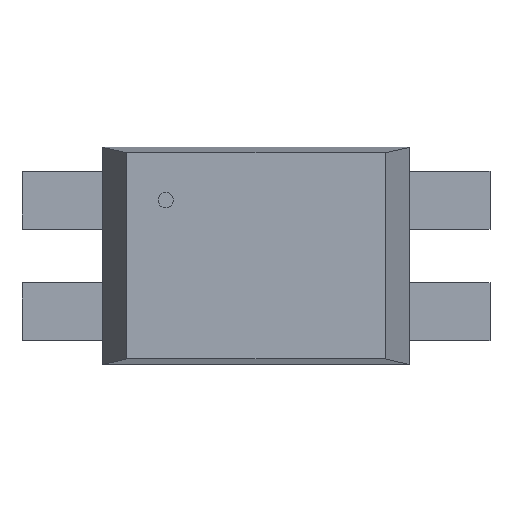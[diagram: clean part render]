
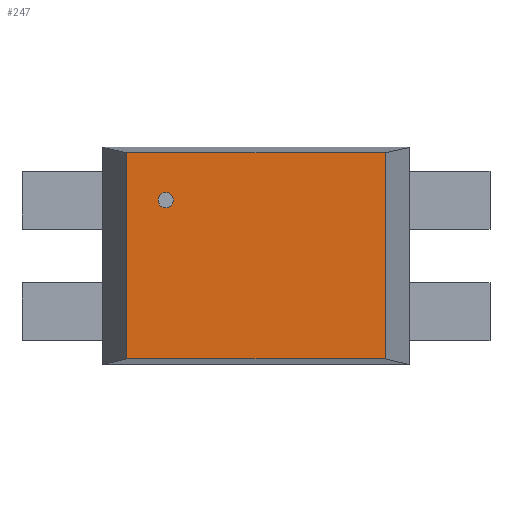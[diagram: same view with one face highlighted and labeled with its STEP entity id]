
A CAD part, top view. The second image highlights one B-rep face of the part: STEP entity #247.
In plain terms, the highlighted planar face has unit normal (0, 0, 1).
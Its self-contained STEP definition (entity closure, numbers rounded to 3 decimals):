
#247=ADVANCED_FACE('',(#253),#248,.T.);
#248=PLANE('',#249);
#249=AXIS2_PLACEMENT_3D('',#250,#251,#252);
#250=CARTESIAN_POINT('',(2.261,-3.62,4.267));
#251=DIRECTION('',(0.0,0.0,1.0));
#252=DIRECTION('',(0.,1.,0.));
#253=FACE_OUTER_BOUND('',#254,.T.);
#254=EDGE_LOOP('',(#255,#265,#275,#285));
#258=CARTESIAN_POINT('',(8.153,-3.62,4.267));
#257=VERTEX_POINT('',#258);
#260=CARTESIAN_POINT('',(2.261,-3.62,4.267));
#259=VERTEX_POINT('',#260);
#256=EDGE_CURVE('',#257,#259,#261,.T.);
#261=LINE('',#258,#263);
#263=VECTOR('',#264,5.893);
#264=DIRECTION('',(-1.0,0.0,0.0));
#255=ORIENTED_EDGE('',*,*,#256,.F.);
#268=CARTESIAN_POINT('',(8.153,1.08,4.267));
#267=VERTEX_POINT('',#268);
#266=EDGE_CURVE('',#267,#257,#271,.T.);
#271=LINE('',#268,#273);
#273=VECTOR('',#274,4.699);
#274=DIRECTION('',(0.0,-1.0,0.0));
#265=ORIENTED_EDGE('',*,*,#266,.F.);
#278=CARTESIAN_POINT('',(2.261,1.08,4.267));
#277=VERTEX_POINT('',#278);
#276=EDGE_CURVE('',#277,#267,#281,.T.);
#281=LINE('',#278,#283);
#283=VECTOR('',#284,5.893);
#284=DIRECTION('',(1.0,0.0,0.0));
#275=ORIENTED_EDGE('',*,*,#276,.F.);
#286=EDGE_CURVE('',#259,#277,#291,.T.);
#291=LINE('',#260,#293);
#293=VECTOR('',#294,4.699);
#294=DIRECTION('',(0.0,1.0,0.0));
#285=ORIENTED_EDGE('',*,*,#286,.F.);
